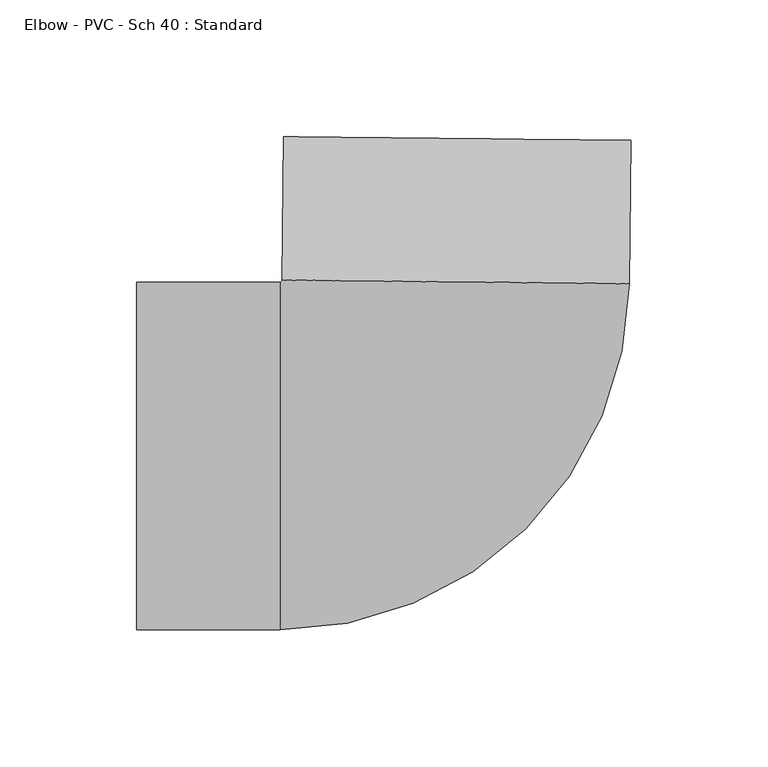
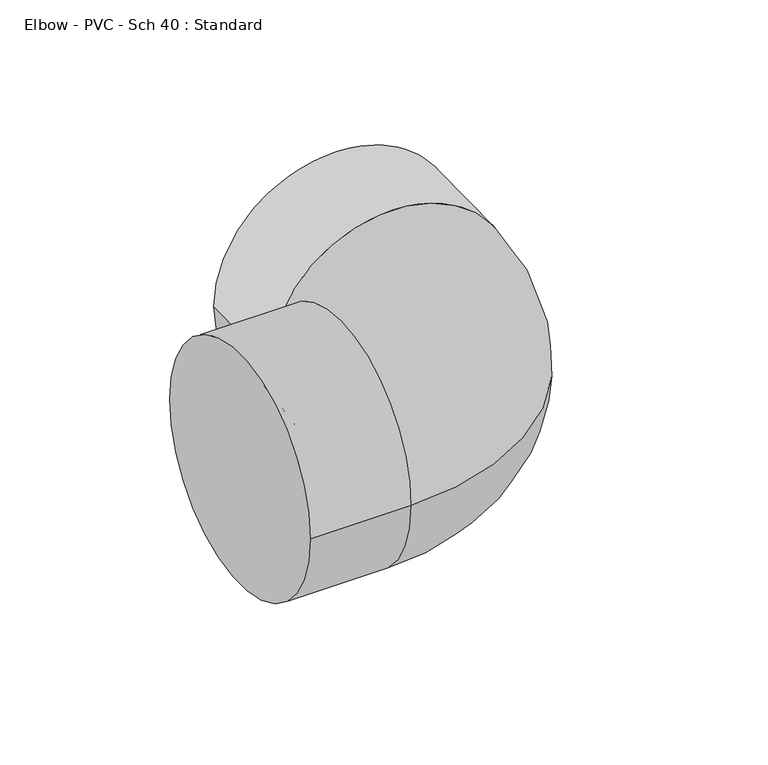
"""IFC4 building model written with IfcOpenShell, lengths in millimetres: pipe fitting geometry, Elbow - PVC - Sch 40 : Standard."""

from ifc_helpers import new_model, si_unit, point, frame, origin, place, context, project, spatial, circle_curve, ellipse_curve, trimmed, source, transform, mapped, element, save
from ifc_brep_helpers import plane_surface, cylinder_surface, revolved_surface, advanced_brep


def elbow_pvc_sch_40_standard_f9cb6bb1(model_context):
    return source(origin(), model_context, "Body", "AdvancedBrep", [
        advanced_brep(
        [(-116.0277115, -63.5, 0.0), (-116.0277115, 63.5, 0.0), (-63.6275115, -63.5, 0.0), (-63.6275115, 63.5, 0.0), (-62.8338046, 64.2854822, 0.0), (64.1593058, 62.9626373, 0.0), (64.7051116, 115.3599947, 0.0), (-62.2879988, 116.6828396, 0.0)],
        [
            (0, 1, circle_curve(frame((-116.0277115, 0.0, 0.0), z_axis=(-1.0, 0.0, 0.0), x_axis=(0.0, 1.0, 0.0)), 63.5)),
            (1, 0, circle_curve(frame((-116.0277115, 0.0, 0.0), z_axis=(-1.0, 0.0, 0.0), x_axis=(0.0, 1.0, 0.0)), 63.5)),
            (0, 2),
            (2, 3, circle_curve(frame((-63.6275115, 0.0, 0.0), z_axis=(-1.0, 0.0, 0.0), x_axis=(0.0, 1.0, 0.0)), 63.5)),
            (3, 1),
            (3, 2, circle_curve(frame((-63.6275115, 0.0, 0.0), z_axis=(-1.0, 0.0, 0.0), x_axis=(0.0, 1.0, 0.0)), 63.5)),
            (4, 3, circle_curve(frame((-63.6275115, 64.29375, 0.0), z_axis=(0.0, 0.0, -1.0), x_axis=(0.0, -1.0, 0.0)), 0.79375)),
            (2, 5, circle_curve(frame((-63.6275115, 64.29375, 0.0), z_axis=(0.0, 0.0, 1.0), x_axis=(0.0, -1.0, 0.0)), 127.79375)),
            (5, 4, circle_curve(frame((0.6627506, 63.6240598, 0.0), z_axis=(-0.01041610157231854, -0.9999457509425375, 0.0), x_axis=(-0.9999457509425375, 0.01041610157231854, 0.0)), 63.5)),
            (4, 5, circle_curve(frame((0.6627506, 63.6240598, 0.0), z_axis=(-0.010416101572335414, -0.9999457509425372, 0.0), x_axis=(-0.9999457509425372, 0.010416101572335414, 0.0)), 63.5)),
            (6, 7, circle_curve(frame((1.2085564, 116.0214171, 0.0), z_axis=(0.010416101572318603, 0.9999457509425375, 0.0), x_axis=(-0.9999457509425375, 0.010416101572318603, 0.0)), 63.5)),
            (7, 6, circle_curve(frame((1.2085564, 116.0214171, 0.0), z_axis=(0.010416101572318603, 0.9999457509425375, 0.0), x_axis=(-0.9999457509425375, 0.010416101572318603, 0.0)), 63.5)),
            (5, 6),
            (7, 4),
        ],
        [
            plane_surface(frame((-116.0277115, 0.0, 0.0), z_axis=(-1.0, 0.0, 0.0), x_axis=(0.0, 0.0, 1.0))),
            cylinder_surface(frame((-116.0277115, 0.0, 0.0), z_axis=(-1.0, 0.0, 0.0), x_axis=(0.0, 1.0, 0.0)), 63.5),
            revolved_surface(trimmed(ellipse_curve(frame((-63.6275115, 0.0, 0.0), z_axis=(-1.0, 0.0, 0.0), x_axis=(0.0, 1.0, 0.0)), 63.5, 63.5), [point((-63.6275115, -63.5, 0.0))], [point((-63.6275115, 63.5, 0.0))], True, "CARTESIAN"), (-63.6275115, 64.29375, 0.0), (0.0, 0.0, 1.0)),
            revolved_surface(trimmed(ellipse_curve(frame((-63.6275115, 0.0, 0.0), z_axis=(-1.0, 0.0, 0.0), x_axis=(0.0, 1.0, 0.0)), 63.5, 63.5), [point((-63.6275115, 63.5, 0.0))], [point((-63.6275115, -63.5, 0.0))], True, "CARTESIAN"), (-63.6275115, 64.29375, 0.0), (0.0, 0.0, 1.0)),
            plane_surface(frame((1.2085564, 116.0214171, 0.0), z_axis=(0.010416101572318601, 0.9999457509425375, 0.0), x_axis=(0.0, 0.0, 1.0))),
            cylinder_surface(frame((0.6627506, 63.6240598, 0.0), z_axis=(-0.010416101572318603, -0.9999457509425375, 0.0), x_axis=(-0.9999457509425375, 0.010416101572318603, 0.0)), 63.5),
        ],
        [
            (0, [[1, 2]]),
            (1, [[-1, 3, 4, 5]]),
            (1, [[-2, -5, 6, -3]]),
            (2, [[7, -4, 8, 9]]),
            (3, [[-8, -6, -7, 10]]),
            (4, [[11, 12]]),
            (5, [[-9, 13, -12, 14]]),
            (5, [[-10, -14, -11, -13]]),
        ],
    ),
    ])


if __name__ == "__main__":
    model = new_model("IFC4")
    model_context = context("Model", 3, world=origin())
    ifc_project = project(units=[si_unit("LENGTHUNIT", "METRE", prefix="MILLI")], contexts=[model_context])
    site = spatial("IfcSite", under=ifc_project)
    building = spatial("IfcBuilding", under=site)
    placement = place(None, origin())
    elbow_pvc_sch_40_standard_shape = elbow_pvc_sch_40_standard_f9cb6bb1(model_context)
    element("IfcPipeFitting", 1, ObjectType="Elbow - PVC - Sch 40 : Standard", at=placement, inside=building, context=model_context, shape_type="MappedRepresentation", body=[
        mapped(elbow_pvc_sch_40_standard_shape, transform((0.0, 0.0, 0.0), x_axis=(1.0, 0.0, 0.0), y_axis=(0.0, 1.0, 0.0), z_axis=(0.0, 0.0, 1.0))),
    ])
    save(model, "model.ifc")
